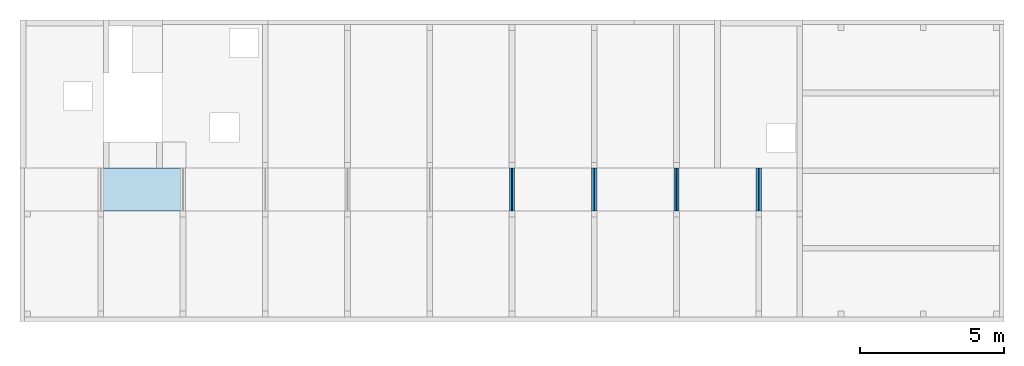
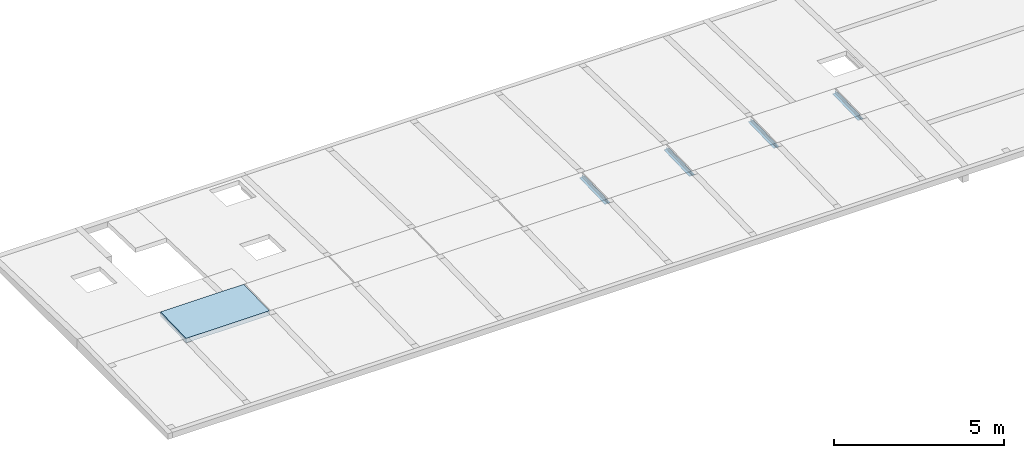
# One storey, part 5 of 5: 4 beams, 1 slab.
"""IFC4 building model written with IfcOpenShell, lengths in metres."""

from ifc_helpers import new_model, entity, si_unit, converted_unit, derived_unit, frame, origin, place, context, subcontext, project, spatial, faceted_brep, material, element, save


model = new_model("IFC4")

# Units and contexts
model_context = context("Model", 3, precision=1e-05, world=origin())
plan_context = context("Plan", 2, precision=1e-05, world=origin())
body_context = subcontext(model_context, "Body", "Model", "MODEL_VIEW")
ifc_project = project(units=[si_unit("LENGTHUNIT", "METRE"), si_unit("AREAUNIT", "SQUARE_METRE"), si_unit("VOLUMEUNIT", "CUBIC_METRE"), si_unit("MASSUNIT", "GRAM", prefix="KILO"), converted_unit("PLANEANGLEUNIT", "DEGREE", entity("IfcPlaneAngleMeasure", 0.0174532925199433), si_unit("PLANEANGLEUNIT", "RADIAN"), dimensions=[0, 0, 0, 0, 0, 0, 0]), derived_unit("THERMALTRANSMITTANCEUNIT", [(si_unit("POWERUNIT", "WATT"), 1), (si_unit("THERMODYNAMICTEMPERATUREUNIT", "KELVIN"), -1), (si_unit("LENGTHUNIT", "METRE"), -2)]), derived_unit("VOLUMETRICFLOWRATEUNIT", [(si_unit("LENGTHUNIT", "METRE"), 3), (converted_unit("TIMEUNIT", "hour", entity("IfcTimeMeasure", 3600.0), si_unit("TIMEUNIT", "SECOND"), dimensions=[0, 0, 1, 0, 0, 0, 0]), -1), (si_unit("LENGTHUNIT", "METRE"), -1)])], contexts=[model_context, plan_context])

# Site, building, storey
site_placement = place(None, origin())
site = spatial("IfcSite", under=ifc_project, at=site_placement, Name="Site", CompositionType="ELEMENT")
building_placement = place(site_placement, origin())
building = spatial("IfcBuilding", under=site, at=building_placement, Name="Admin", CompositionType="ELEMENT")
storey_placement = place(building_placement, frame((0.0, 0.0, 9.64)))
storey = spatial("IfcBuildingStorey", under=building, at=storey_placement, Name="03-Toiture", CompositionType="ELEMENT", Elevation=9.64)

# Beams
ifc_material_1 = material(Name="S235")
beam_1_placement = place(storey_placement, frame((49.5998007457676, 15.699449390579, -0.0229797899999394)))
element("IfcBeam", 1, at=beam_1_placement, inside=storey, material=ifc_material_1, Name="PM 2.08", PredefinedType="NOTDEFINED", context=body_context, shape_type="Brep", body=[
    faceted_brep([(0.0, 0.0, -1.81898940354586e-15), (0.18, 0.0, -1.81898940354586e-15), (0.180000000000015, 1.49998796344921, 0.0434801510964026), (1.45519152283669e-14, 1.49998796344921, 0.0434801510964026), (0.07075, 1.81898940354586e-15, 0.0139999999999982), (0.0, 0.0, 0.0139999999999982), (1.45519152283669e-14, 1.49998796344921, 0.0574801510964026), (0.0707500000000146, 1.49998796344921, 0.0574801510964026), (0.0733547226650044, 1.81898940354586e-15, 0.0142278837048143), (0.0733547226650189, 1.49998796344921, 0.0577080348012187), (0.0758803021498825, 1.81898940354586e-15, 0.0149046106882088), (0.075880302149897, 1.49998796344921, 0.0583847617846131), (0.07825, 1.81898940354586e-15, 0.0160096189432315), (0.0782500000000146, 1.49998796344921, 0.0594897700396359), (0.0803918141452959, 1.81898940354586e-15, 0.0175093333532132), (0.0803918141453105, 1.49998796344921, 0.0609894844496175), (0.0822406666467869, 1.81898940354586e-15, 0.0193581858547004), (0.0822406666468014, 1.49998796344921, 0.0628383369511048), (0.083740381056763, 1.81898940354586e-15, 0.0214999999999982), (0.0837403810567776, 1.49998796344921, 0.0649801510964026), (0.0848453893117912, 1.81898940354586e-15, 0.0238696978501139), (0.0848453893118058, 1.49998796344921, 0.0673498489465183), (0.0855221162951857, 1.81898940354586e-15, 0.0263952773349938), (0.0855221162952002, 1.49998796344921, 0.0698754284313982), (0.08575, 0.0, 0.0289999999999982), (0.0857500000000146, 1.49998796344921, 0.0724801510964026), (0.09425, 0.0, 0.0899999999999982), (0.08575, 0.0, 0.0899999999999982), (0.0857500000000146, 1.49998796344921, 0.133480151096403), (0.0942500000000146, 1.49998796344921, 0.133480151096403), (0.0944778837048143, 0.0, 0.0263952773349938), (0.09425, 0.0, 0.0289999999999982), (0.0942500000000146, 1.49998796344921, 0.0724801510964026), (0.0944778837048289, 1.49998796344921, 0.0698754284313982), (0.0951546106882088, 0.0, 0.0238696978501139), (0.0951546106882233, 1.49998796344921, 0.0673498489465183), (0.096259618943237, 0.0, 0.0214999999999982), (0.0962596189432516, 1.49998796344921, 0.0649801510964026), (0.0977593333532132, 0.0, 0.0193581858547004), (0.0977593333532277, 1.49998796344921, 0.0628383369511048), (0.0996081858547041, 0.0, 0.0175093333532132), (0.0996081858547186, 1.49998796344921, 0.0609894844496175), (0.10175, 0.0, 0.0160096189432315), (0.101750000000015, 1.49998796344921, 0.0594897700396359), (0.104119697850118, 0.0, 0.0149046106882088), (0.104119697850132, 1.49998796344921, 0.0583847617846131), (0.106645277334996, 0.0, 0.0142278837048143), (0.10664527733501, 1.49998796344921, 0.0577080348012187), (0.10925, 0.0, 0.0139999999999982), (0.109250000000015, 1.49998796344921, 0.0574801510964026), (0.18, 0.0, 0.0139999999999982), (0.180000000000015, 1.49998796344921, 0.0574801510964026), (0.180000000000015, 1.5, 0.0434797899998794), (1.45519152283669e-14, 1.5, 0.0434797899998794), (1.45519152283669e-14, 1.5, 0.0574797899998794), (0.0707500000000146, 1.5, 0.0574797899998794), (0.0733547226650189, 1.5, 0.0577076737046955), (0.075880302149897, 1.5, 0.05838440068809), (0.0782500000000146, 1.5, 0.0594894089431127), (0.0803918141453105, 1.5, 0.0609891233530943), (0.0822406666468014, 1.5, 0.0628379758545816), (0.0837403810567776, 1.5, 0.0649797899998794), (0.0848453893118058, 1.5, 0.0673494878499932), (0.0855221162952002, 1.5, 0.069875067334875), (0.0857500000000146, 1.5, 0.0724797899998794), (0.0857500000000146, 1.5, 0.133479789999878), (0.0942500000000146, 1.5, 0.133479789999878), (0.0942500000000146, 1.5, 0.0724797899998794), (0.0944778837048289, 1.5, 0.069875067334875), (0.0951546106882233, 1.5, 0.0673494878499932), (0.0962596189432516, 1.5, 0.0649797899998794), (0.0977593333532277, 1.5, 0.0628379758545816), (0.0996081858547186, 1.5, 0.0609891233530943), (0.101750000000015, 1.5, 0.0594894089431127), (0.104119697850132, 1.5, 0.05838440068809), (0.10664527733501, 1.5, 0.0577076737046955), (0.109250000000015, 1.5, 0.0574797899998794), (0.180000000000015, 1.5, 0.0574797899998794)], [[[0, 1, 2, 3]], [[4, 5, 6, 7]], [[8, 4, 7, 9]], [[10, 8, 9, 11]], [[12, 10, 11, 13]], [[14, 12, 13, 15]], [[16, 14, 15, 17]], [[18, 16, 17, 19]], [[20, 18, 19, 21]], [[22, 20, 21, 23]], [[24, 22, 23, 25]], [[26, 27, 28, 29]], [[30, 31, 32, 33]], [[34, 30, 33, 35]], [[36, 34, 35, 37]], [[38, 36, 37, 39]], [[40, 38, 39, 41]], [[42, 40, 41, 43]], [[44, 42, 43, 45]], [[46, 44, 45, 47]], [[48, 46, 47, 49]], [[50, 48, 49, 51]], [[3, 2, 52, 53]], [[7, 6, 54, 55]], [[9, 7, 55, 56]], [[11, 9, 56, 57]], [[13, 11, 57, 58]], [[15, 13, 58, 59]], [[17, 15, 59, 60]], [[19, 17, 60, 61]], [[21, 19, 61, 62]], [[23, 21, 62, 63]], [[25, 23, 63, 64]], [[27, 24, 25, 64, 65, 28]], [[29, 28, 65, 66]], [[31, 26, 29, 66, 67, 32]], [[33, 32, 67, 68]], [[35, 33, 68, 69]], [[37, 35, 69, 70]], [[39, 37, 70, 71]], [[41, 39, 71, 72]], [[43, 41, 72, 73]], [[45, 43, 73, 74]], [[47, 45, 74, 75]], [[49, 47, 75, 76]], [[51, 49, 76, 77]], [[54, 53, 52, 77, 76, 75, 74, 73, 72, 71, 70, 69, 68, 67, 66, 65, 64, 63, 62, 61, 60, 59, 58, 57, 56, 55]], [[77, 52, 2, 1, 50, 51]], [[50, 1, 0, 5, 4, 8, 10, 12, 14, 16, 18, 20, 22, 24, 27, 26, 31, 30, 34, 36, 38, 40, 42, 44, 46, 48]], [[5, 0, 3, 53, 54, 6]]], orient=[[False], [False], [False], [False], [False], [False], [False], [False], [False], [False], [False], [False], [False], [False], [False], [False], [False], [False], [False], [False], [False], [False], [False], [False], [False], [False], [False], [False], [False], [False], [False], [False], [False], [False], [False], [False], [False], [False], [False], [False], [False], [False], [False], [False], [False], [False], [False], [False], [False], [False]]),
])
ifc_material_2 = material(Name="S235")
beam_2_placement = place(storey_placement, frame((41.0198007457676, 15.699449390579, -0.0229797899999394)))
element("IfcBeam", 2, at=beam_2_placement, inside=storey, material=ifc_material_2, Name="PM 2.05", PredefinedType="NOTDEFINED", context=body_context, shape_type="Brep", body=[
    faceted_brep([(0.0, 0.0, -1.81898940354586e-15), (0.18, 0.0, -1.81898940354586e-15), (0.180000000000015, 1.49998796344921, 0.0434801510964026), (1.45519152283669e-14, 1.49998796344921, 0.0434801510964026), (0.07075, 1.81898940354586e-15, 0.0139999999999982), (0.0, 0.0, 0.0139999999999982), (1.45519152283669e-14, 1.49998796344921, 0.0574801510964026), (0.0707500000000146, 1.49998796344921, 0.0574801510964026), (0.0733547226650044, 1.81898940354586e-15, 0.0142278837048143), (0.0733547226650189, 1.49998796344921, 0.0577080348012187), (0.0758803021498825, 1.81898940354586e-15, 0.0149046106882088), (0.075880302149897, 1.49998796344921, 0.0583847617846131), (0.07825, 1.81898940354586e-15, 0.0160096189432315), (0.0782500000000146, 1.49998796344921, 0.0594897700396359), (0.0803918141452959, 1.81898940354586e-15, 0.0175093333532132), (0.0803918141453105, 1.49998796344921, 0.0609894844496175), (0.0822406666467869, 1.81898940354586e-15, 0.0193581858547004), (0.0822406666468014, 1.49998796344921, 0.0628383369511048), (0.083740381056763, 1.81898940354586e-15, 0.0214999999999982), (0.0837403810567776, 1.49998796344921, 0.0649801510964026), (0.0848453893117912, 1.81898940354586e-15, 0.0238696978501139), (0.0848453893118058, 1.49998796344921, 0.0673498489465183), (0.0855221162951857, 1.81898940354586e-15, 0.0263952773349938), (0.0855221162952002, 1.49998796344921, 0.0698754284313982), (0.08575, 0.0, 0.0289999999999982), (0.0857500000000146, 1.49998796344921, 0.0724801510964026), (0.09425, 0.0, 0.0899999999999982), (0.08575, 0.0, 0.0899999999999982), (0.0857500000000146, 1.49998796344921, 0.133480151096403), (0.0942500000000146, 1.49998796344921, 0.133480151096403), (0.0944778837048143, 0.0, 0.0263952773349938), (0.09425, 0.0, 0.0289999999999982), (0.0942500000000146, 1.49998796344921, 0.0724801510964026), (0.0944778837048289, 1.49998796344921, 0.0698754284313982), (0.0951546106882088, 0.0, 0.0238696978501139), (0.0951546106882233, 1.49998796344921, 0.0673498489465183), (0.096259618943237, 0.0, 0.0214999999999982), (0.0962596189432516, 1.49998796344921, 0.0649801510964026), (0.0977593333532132, 0.0, 0.0193581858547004), (0.0977593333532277, 1.49998796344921, 0.0628383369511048), (0.0996081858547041, 0.0, 0.0175093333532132), (0.0996081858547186, 1.49998796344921, 0.0609894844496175), (0.10175, 0.0, 0.0160096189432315), (0.101750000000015, 1.49998796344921, 0.0594897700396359), (0.104119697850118, 0.0, 0.0149046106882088), (0.104119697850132, 1.49998796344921, 0.0583847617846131), (0.106645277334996, 0.0, 0.0142278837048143), (0.10664527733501, 1.49998796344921, 0.0577080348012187), (0.10925, 0.0, 0.0139999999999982), (0.109250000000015, 1.49998796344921, 0.0574801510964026), (0.18, 0.0, 0.0139999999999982), (0.180000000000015, 1.49998796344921, 0.0574801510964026), (0.180000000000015, 1.5, 0.0434797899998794), (1.45519152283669e-14, 1.5, 0.0434797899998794), (1.45519152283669e-14, 1.5, 0.0574797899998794), (0.0707500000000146, 1.5, 0.0574797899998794), (0.0733547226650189, 1.5, 0.0577076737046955), (0.075880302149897, 1.5, 0.05838440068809), (0.0782500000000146, 1.5, 0.0594894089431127), (0.0803918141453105, 1.5, 0.0609891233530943), (0.0822406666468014, 1.5, 0.0628379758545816), (0.0837403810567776, 1.5, 0.0649797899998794), (0.0848453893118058, 1.5, 0.0673494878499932), (0.0855221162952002, 1.5, 0.069875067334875), (0.0857500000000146, 1.5, 0.0724797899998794), (0.0857500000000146, 1.5, 0.133479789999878), (0.0942500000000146, 1.5, 0.133479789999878), (0.0942500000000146, 1.5, 0.0724797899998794), (0.0944778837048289, 1.5, 0.069875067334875), (0.0951546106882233, 1.5, 0.0673494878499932), (0.0962596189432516, 1.5, 0.0649797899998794), (0.0977593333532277, 1.5, 0.0628379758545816), (0.0996081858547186, 1.5, 0.0609891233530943), (0.101750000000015, 1.5, 0.0594894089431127), (0.104119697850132, 1.5, 0.05838440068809), (0.10664527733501, 1.5, 0.0577076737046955), (0.109250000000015, 1.5, 0.0574797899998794), (0.180000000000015, 1.5, 0.0574797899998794)], [[[0, 1, 2, 3]], [[4, 5, 6, 7]], [[8, 4, 7, 9]], [[10, 8, 9, 11]], [[12, 10, 11, 13]], [[14, 12, 13, 15]], [[16, 14, 15, 17]], [[18, 16, 17, 19]], [[20, 18, 19, 21]], [[22, 20, 21, 23]], [[24, 22, 23, 25]], [[26, 27, 28, 29]], [[30, 31, 32, 33]], [[34, 30, 33, 35]], [[36, 34, 35, 37]], [[38, 36, 37, 39]], [[40, 38, 39, 41]], [[42, 40, 41, 43]], [[44, 42, 43, 45]], [[46, 44, 45, 47]], [[48, 46, 47, 49]], [[50, 48, 49, 51]], [[3, 2, 52, 53]], [[7, 6, 54, 55]], [[9, 7, 55, 56]], [[11, 9, 56, 57]], [[13, 11, 57, 58]], [[15, 13, 58, 59]], [[17, 15, 59, 60]], [[19, 17, 60, 61]], [[21, 19, 61, 62]], [[23, 21, 62, 63]], [[25, 23, 63, 64]], [[27, 24, 25, 64, 65, 28]], [[29, 28, 65, 66]], [[31, 26, 29, 66, 67, 32]], [[33, 32, 67, 68]], [[35, 33, 68, 69]], [[37, 35, 69, 70]], [[39, 37, 70, 71]], [[41, 39, 71, 72]], [[43, 41, 72, 73]], [[45, 43, 73, 74]], [[47, 45, 74, 75]], [[49, 47, 75, 76]], [[51, 49, 76, 77]], [[54, 53, 52, 77, 76, 75, 74, 73, 72, 71, 70, 69, 68, 67, 66, 65, 64, 63, 62, 61, 60, 59, 58, 57, 56, 55]], [[77, 52, 2, 1, 50, 51]], [[50, 1, 0, 5, 4, 8, 10, 12, 14, 16, 18, 20, 22, 24, 27, 26, 31, 30, 34, 36, 38, 40, 42, 44, 46, 48]], [[5, 0, 3, 53, 54, 6]]], orient=[[False], [False], [False], [False], [False], [False], [False], [False], [False], [False], [False], [False], [False], [False], [False], [False], [False], [False], [False], [False], [False], [False], [False], [False], [False], [False], [False], [False], [False], [False], [False], [False], [False], [False], [False], [False], [False], [False], [False], [False], [False], [False], [False], [False], [False], [False], [False], [False], [False], [False]]),
])
ifc_material_3 = material(Name="S235")
beam_3_placement = place(storey_placement, frame((43.8798007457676, 15.699449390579, -0.0229797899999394)))
element("IfcBeam", 3, at=beam_3_placement, inside=storey, material=ifc_material_3, Name="PM 2.06", PredefinedType="NOTDEFINED", context=body_context, shape_type="Brep", body=[
    faceted_brep([(0.0, 0.0, -1.81898940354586e-15), (0.18, 0.0, -1.81898940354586e-15), (0.180000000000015, 1.49998796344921, 0.0434801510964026), (1.45519152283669e-14, 1.49998796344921, 0.0434801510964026), (0.07075, 1.81898940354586e-15, 0.0139999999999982), (0.0, 0.0, 0.0139999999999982), (1.45519152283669e-14, 1.49998796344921, 0.0574801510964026), (0.0707500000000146, 1.49998796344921, 0.0574801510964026), (0.0733547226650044, 1.81898940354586e-15, 0.0142278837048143), (0.0733547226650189, 1.49998796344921, 0.0577080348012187), (0.0758803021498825, 1.81898940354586e-15, 0.0149046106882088), (0.075880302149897, 1.49998796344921, 0.0583847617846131), (0.07825, 1.81898940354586e-15, 0.0160096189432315), (0.0782500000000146, 1.49998796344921, 0.0594897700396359), (0.0803918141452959, 1.81898940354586e-15, 0.0175093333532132), (0.0803918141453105, 1.49998796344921, 0.0609894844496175), (0.0822406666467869, 1.81898940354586e-15, 0.0193581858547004), (0.0822406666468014, 1.49998796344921, 0.0628383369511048), (0.083740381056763, 1.81898940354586e-15, 0.0214999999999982), (0.0837403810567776, 1.49998796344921, 0.0649801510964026), (0.0848453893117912, 1.81898940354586e-15, 0.0238696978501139), (0.0848453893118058, 1.49998796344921, 0.0673498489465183), (0.0855221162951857, 1.81898940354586e-15, 0.0263952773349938), (0.0855221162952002, 1.49998796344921, 0.0698754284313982), (0.08575, 0.0, 0.0289999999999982), (0.0857500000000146, 1.49998796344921, 0.0724801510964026), (0.09425, 0.0, 0.0899999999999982), (0.08575, 0.0, 0.0899999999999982), (0.0857500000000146, 1.49998796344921, 0.133480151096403), (0.0942500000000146, 1.49998796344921, 0.133480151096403), (0.0944778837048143, 0.0, 0.0263952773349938), (0.09425, 0.0, 0.0289999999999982), (0.0942500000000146, 1.49998796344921, 0.0724801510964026), (0.0944778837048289, 1.49998796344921, 0.0698754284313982), (0.0951546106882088, 0.0, 0.0238696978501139), (0.0951546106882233, 1.49998796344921, 0.0673498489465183), (0.096259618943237, 0.0, 0.0214999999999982), (0.0962596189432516, 1.49998796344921, 0.0649801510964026), (0.0977593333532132, 0.0, 0.0193581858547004), (0.0977593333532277, 1.49998796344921, 0.0628383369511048), (0.0996081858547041, 0.0, 0.0175093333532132), (0.0996081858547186, 1.49998796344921, 0.0609894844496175), (0.10175, 0.0, 0.0160096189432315), (0.101750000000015, 1.49998796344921, 0.0594897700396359), (0.104119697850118, 0.0, 0.0149046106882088), (0.104119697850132, 1.49998796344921, 0.0583847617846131), (0.106645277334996, 0.0, 0.0142278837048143), (0.10664527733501, 1.49998796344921, 0.0577080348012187), (0.10925, 0.0, 0.0139999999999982), (0.109250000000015, 1.49998796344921, 0.0574801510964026), (0.18, 0.0, 0.0139999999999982), (0.180000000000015, 1.49998796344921, 0.0574801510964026), (0.180000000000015, 1.5, 0.0434797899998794), (1.45519152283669e-14, 1.5, 0.0434797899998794), (1.45519152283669e-14, 1.5, 0.0574797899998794), (0.0707500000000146, 1.5, 0.0574797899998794), (0.0733547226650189, 1.5, 0.0577076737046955), (0.075880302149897, 1.5, 0.05838440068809), (0.0782500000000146, 1.5, 0.0594894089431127), (0.0803918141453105, 1.5, 0.0609891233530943), (0.0822406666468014, 1.5, 0.0628379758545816), (0.0837403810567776, 1.5, 0.0649797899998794), (0.0848453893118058, 1.5, 0.0673494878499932), (0.0855221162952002, 1.5, 0.069875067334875), (0.0857500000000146, 1.5, 0.0724797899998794), (0.0857500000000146, 1.5, 0.133479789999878), (0.0942500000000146, 1.5, 0.133479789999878), (0.0942500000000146, 1.5, 0.0724797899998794), (0.0944778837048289, 1.5, 0.069875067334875), (0.0951546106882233, 1.5, 0.0673494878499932), (0.0962596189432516, 1.5, 0.0649797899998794), (0.0977593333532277, 1.5, 0.0628379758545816), (0.0996081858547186, 1.5, 0.0609891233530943), (0.101750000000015, 1.5, 0.0594894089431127), (0.104119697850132, 1.5, 0.05838440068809), (0.10664527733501, 1.5, 0.0577076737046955), (0.109250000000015, 1.5, 0.0574797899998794), (0.180000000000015, 1.5, 0.0574797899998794)], [[[0, 1, 2, 3]], [[4, 5, 6, 7]], [[8, 4, 7, 9]], [[10, 8, 9, 11]], [[12, 10, 11, 13]], [[14, 12, 13, 15]], [[16, 14, 15, 17]], [[18, 16, 17, 19]], [[20, 18, 19, 21]], [[22, 20, 21, 23]], [[24, 22, 23, 25]], [[26, 27, 28, 29]], [[30, 31, 32, 33]], [[34, 30, 33, 35]], [[36, 34, 35, 37]], [[38, 36, 37, 39]], [[40, 38, 39, 41]], [[42, 40, 41, 43]], [[44, 42, 43, 45]], [[46, 44, 45, 47]], [[48, 46, 47, 49]], [[50, 48, 49, 51]], [[3, 2, 52, 53]], [[7, 6, 54, 55]], [[9, 7, 55, 56]], [[11, 9, 56, 57]], [[13, 11, 57, 58]], [[15, 13, 58, 59]], [[17, 15, 59, 60]], [[19, 17, 60, 61]], [[21, 19, 61, 62]], [[23, 21, 62, 63]], [[25, 23, 63, 64]], [[27, 24, 25, 64, 65, 28]], [[29, 28, 65, 66]], [[31, 26, 29, 66, 67, 32]], [[33, 32, 67, 68]], [[35, 33, 68, 69]], [[37, 35, 69, 70]], [[39, 37, 70, 71]], [[41, 39, 71, 72]], [[43, 41, 72, 73]], [[45, 43, 73, 74]], [[47, 45, 74, 75]], [[49, 47, 75, 76]], [[51, 49, 76, 77]], [[54, 53, 52, 77, 76, 75, 74, 73, 72, 71, 70, 69, 68, 67, 66, 65, 64, 63, 62, 61, 60, 59, 58, 57, 56, 55]], [[77, 52, 2, 1, 50, 51]], [[50, 1, 0, 5, 4, 8, 10, 12, 14, 16, 18, 20, 22, 24, 27, 26, 31, 30, 34, 36, 38, 40, 42, 44, 46, 48]], [[5, 0, 3, 53, 54, 6]]], orient=[[False], [False], [False], [False], [False], [False], [False], [False], [False], [False], [False], [False], [False], [False], [False], [False], [False], [False], [False], [False], [False], [False], [False], [False], [False], [False], [False], [False], [False], [False], [False], [False], [False], [False], [False], [False], [False], [False], [False], [False], [False], [False], [False], [False], [False], [False], [False], [False], [False], [False]]),
])
ifc_material_4 = material(Name="S235")
beam_4_placement = place(storey_placement, frame((46.7398007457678, 15.699449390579, -0.0229797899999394)))
element("IfcBeam", 4, at=beam_4_placement, inside=storey, material=ifc_material_4, Name="PM 2.07", PredefinedType="NOTDEFINED", context=body_context, shape_type="Brep", body=[
    faceted_brep([(0.0, 0.0, -1.81898940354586e-15), (0.18, 0.0, -1.81898940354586e-15), (0.180000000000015, 1.49998796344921, 0.0434801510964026), (1.45519152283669e-14, 1.49998796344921, 0.0434801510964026), (0.07075, 1.81898940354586e-15, 0.0139999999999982), (0.0, 0.0, 0.0139999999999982), (1.45519152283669e-14, 1.49998796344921, 0.0574801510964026), (0.0707500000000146, 1.49998796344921, 0.0574801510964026), (0.0733547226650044, 1.81898940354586e-15, 0.0142278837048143), (0.0733547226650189, 1.49998796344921, 0.0577080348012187), (0.0758803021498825, 1.81898940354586e-15, 0.0149046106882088), (0.075880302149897, 1.49998796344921, 0.0583847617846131), (0.07825, 1.81898940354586e-15, 0.0160096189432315), (0.0782500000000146, 1.49998796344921, 0.0594897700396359), (0.0803918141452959, 1.81898940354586e-15, 0.0175093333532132), (0.0803918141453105, 1.49998796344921, 0.0609894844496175), (0.0822406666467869, 1.81898940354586e-15, 0.0193581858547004), (0.0822406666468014, 1.49998796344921, 0.0628383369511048), (0.083740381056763, 1.81898940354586e-15, 0.0214999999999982), (0.0837403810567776, 1.49998796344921, 0.0649801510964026), (0.0848453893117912, 1.81898940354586e-15, 0.0238696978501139), (0.0848453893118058, 1.49998796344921, 0.0673498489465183), (0.0855221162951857, 1.81898940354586e-15, 0.0263952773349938), (0.0855221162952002, 1.49998796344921, 0.0698754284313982), (0.08575, 0.0, 0.0289999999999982), (0.0857500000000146, 1.49998796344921, 0.0724801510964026), (0.09425, 0.0, 0.0899999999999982), (0.08575, 0.0, 0.0899999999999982), (0.0857500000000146, 1.49998796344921, 0.133480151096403), (0.0942500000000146, 1.49998796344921, 0.133480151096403), (0.0944778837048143, 0.0, 0.0263952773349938), (0.09425, 0.0, 0.0289999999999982), (0.0942500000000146, 1.49998796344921, 0.0724801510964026), (0.0944778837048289, 1.49998796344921, 0.0698754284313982), (0.0951546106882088, 0.0, 0.0238696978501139), (0.0951546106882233, 1.49998796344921, 0.0673498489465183), (0.096259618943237, 0.0, 0.0214999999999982), (0.0962596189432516, 1.49998796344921, 0.0649801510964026), (0.0977593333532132, 0.0, 0.0193581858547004), (0.0977593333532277, 1.49998796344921, 0.0628383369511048), (0.0996081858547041, 0.0, 0.0175093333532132), (0.0996081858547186, 1.49998796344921, 0.0609894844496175), (0.10175, 0.0, 0.0160096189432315), (0.101750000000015, 1.49998796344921, 0.0594897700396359), (0.104119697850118, 0.0, 0.0149046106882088), (0.104119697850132, 1.49998796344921, 0.0583847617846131), (0.106645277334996, 0.0, 0.0142278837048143), (0.10664527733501, 1.49998796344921, 0.0577080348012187), (0.10925, 0.0, 0.0139999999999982), (0.109250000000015, 1.49998796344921, 0.0574801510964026), (0.18, 0.0, 0.0139999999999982), (0.180000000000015, 1.49998796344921, 0.0574801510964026), (0.180000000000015, 1.5, 0.0434797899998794), (1.45519152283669e-14, 1.5, 0.0434797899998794), (1.45519152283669e-14, 1.5, 0.0574797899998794), (0.0707500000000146, 1.5, 0.0574797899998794), (0.0733547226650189, 1.5, 0.0577076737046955), (0.075880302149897, 1.5, 0.05838440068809), (0.0782500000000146, 1.5, 0.0594894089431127), (0.0803918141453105, 1.5, 0.0609891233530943), (0.0822406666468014, 1.5, 0.0628379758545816), (0.0837403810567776, 1.5, 0.0649797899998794), (0.0848453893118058, 1.5, 0.0673494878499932), (0.0855221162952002, 1.5, 0.069875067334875), (0.0857500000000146, 1.5, 0.0724797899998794), (0.0857500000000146, 1.5, 0.133479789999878), (0.0942500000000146, 1.5, 0.133479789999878), (0.0942500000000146, 1.5, 0.0724797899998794), (0.0944778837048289, 1.5, 0.069875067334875), (0.0951546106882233, 1.5, 0.0673494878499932), (0.0962596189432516, 1.5, 0.0649797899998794), (0.0977593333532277, 1.5, 0.0628379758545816), (0.0996081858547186, 1.5, 0.0609891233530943), (0.101750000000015, 1.5, 0.0594894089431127), (0.104119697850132, 1.5, 0.05838440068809), (0.10664527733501, 1.5, 0.0577076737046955), (0.109250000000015, 1.5, 0.0574797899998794), (0.180000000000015, 1.5, 0.0574797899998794)], [[[0, 1, 2, 3]], [[4, 5, 6, 7]], [[8, 4, 7, 9]], [[10, 8, 9, 11]], [[12, 10, 11, 13]], [[14, 12, 13, 15]], [[16, 14, 15, 17]], [[18, 16, 17, 19]], [[20, 18, 19, 21]], [[22, 20, 21, 23]], [[24, 22, 23, 25]], [[26, 27, 28, 29]], [[30, 31, 32, 33]], [[34, 30, 33, 35]], [[36, 34, 35, 37]], [[38, 36, 37, 39]], [[40, 38, 39, 41]], [[42, 40, 41, 43]], [[44, 42, 43, 45]], [[46, 44, 45, 47]], [[48, 46, 47, 49]], [[50, 48, 49, 51]], [[3, 2, 52, 53]], [[7, 6, 54, 55]], [[9, 7, 55, 56]], [[11, 9, 56, 57]], [[13, 11, 57, 58]], [[15, 13, 58, 59]], [[17, 15, 59, 60]], [[19, 17, 60, 61]], [[21, 19, 61, 62]], [[23, 21, 62, 63]], [[25, 23, 63, 64]], [[27, 24, 25, 64, 65, 28]], [[29, 28, 65, 66]], [[31, 26, 29, 66, 67, 32]], [[33, 32, 67, 68]], [[35, 33, 68, 69]], [[37, 35, 69, 70]], [[39, 37, 70, 71]], [[41, 39, 71, 72]], [[43, 41, 72, 73]], [[45, 43, 73, 74]], [[47, 45, 74, 75]], [[49, 47, 75, 76]], [[51, 49, 76, 77]], [[54, 53, 52, 77, 76, 75, 74, 73, 72, 71, 70, 69, 68, 67, 66, 65, 64, 63, 62, 61, 60, 59, 58, 57, 56, 55]], [[77, 52, 2, 1, 50, 51]], [[50, 1, 0, 5, 4, 8, 10, 12, 14, 16, 18, 20, 22, 24, 27, 26, 31, 30, 34, 36, 38, 40, 42, 44, 46, 48]], [[5, 0, 3, 53, 54, 6]]], orient=[[False], [False], [False], [False], [False], [False], [False], [False], [False], [False], [False], [False], [False], [False], [False], [False], [False], [False], [False], [False], [False], [False], [False], [False], [False], [False], [False], [False], [False], [False], [False], [False], [False], [False], [False], [False], [False], [False], [False], [False], [False], [False], [False], [False], [False], [False], [False], [False], [False], [False]]),
])

# Slab
ifc_material_5 = material(Name="CLT")
slab_placement = place(storey_placement, frame((26.8298006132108, 15.699449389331, -0.00897979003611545)))
element("IfcSlab", 5, at=slab_placement, inside=storey, material=ifc_material_5, Name="CLT ép. 16 cm", PredefinedType="FLOOR", context=body_context, shape_type="Brep", body=[
    faceted_brep([(2.81999999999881, 1.49999894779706, 0.043479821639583), (1.95201763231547, 1.49999305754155, 0.0434799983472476), (1.94799781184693, 1.49999307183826, 0.0434799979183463), (3.63797880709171e-15, 1.49999602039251, 0.0434799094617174), (2.81999999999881, 1.49998796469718, 0.0434801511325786), (1.95201763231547, 1.49999305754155, 0.203479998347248), (2.81999999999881, 1.49999894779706, 0.203479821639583), (2.81999999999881, 1.49998796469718, 0.203480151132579), (3.63797880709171e-15, 1.49999602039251, 0.203479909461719), (1.94799781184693, 1.49999307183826, 0.203479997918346)], [[[0, 1, 2, 3, 4]], [[5, 6, 7, 8, 9]], [[1, 0, 6, 5]], [[2, 1, 5, 9]], [[3, 2, 9, 8]], [[4, 3, 8, 7]], [[0, 4, 7, 6]]], orient=[[False], [False], [False], [False], [False], [False], [False]]),
    faceted_brep([(4.56882189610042e-07, 0.0, 0.0), (2.81999999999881, 0.0, 0.0), (2.81999999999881, 1.49998796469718, 0.043480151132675), (2.45563569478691e-12, 1.49998796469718, 0.043480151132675), (2.81999999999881, 0.0, 0.16), (4.56882189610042e-07, 0.0, 0.16), (2.45563569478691e-12, 1.49998796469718, 0.203480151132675), (2.81999999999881, 1.49998796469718, 0.203480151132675)], [[[0, 1, 2, 3]], [[4, 5, 6, 7]], [[1, 0, 5, 4]], [[2, 1, 4, 7]], [[3, 2, 7, 6]], [[0, 3, 6, 5]]], orient=[[False], [False], [False], [False], [False], [False]]),
])

save(model, "model.ifc")
